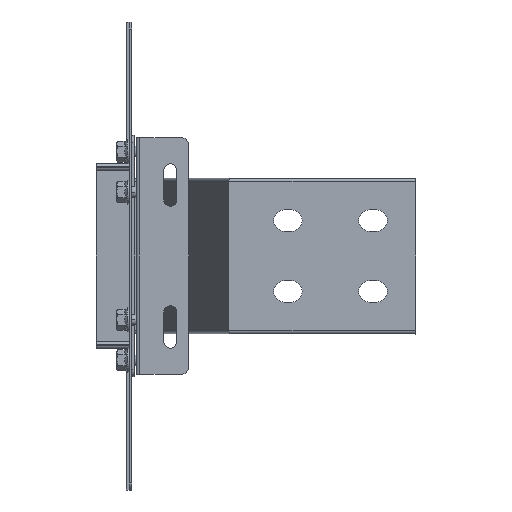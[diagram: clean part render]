
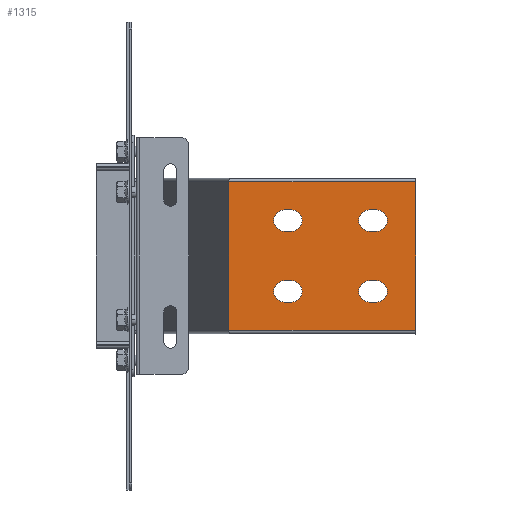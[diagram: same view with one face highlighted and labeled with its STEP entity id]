
A CAD part, front view. The second image highlights one B-rep face of the part: STEP entity #1315.
In plain terms, the highlighted planar face has unit normal (0, -1, 0).
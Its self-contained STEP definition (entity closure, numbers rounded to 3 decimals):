
#1143=AXIS2_PLACEMENT_3D('Plane Axis2P3D',#1140,#1141,#1142) ;
#1181=AXIS2_PLACEMENT_3D('Circle Axis2P3D',#1179,#1180,$) ;
#1197=AXIS2_PLACEMENT_3D('Circle Axis2P3D',#1195,#1196,$) ;
#1215=AXIS2_PLACEMENT_3D('Circle Axis2P3D',#1213,#1214,$) ;
#1231=AXIS2_PLACEMENT_3D('Circle Axis2P3D',#1229,#1230,$) ;
#1249=AXIS2_PLACEMENT_3D('Circle Axis2P3D',#1247,#1248,$) ;
#1265=AXIS2_PLACEMENT_3D('Circle Axis2P3D',#1263,#1264,$) ;
#1292=AXIS2_PLACEMENT_3D('Circle Axis2P3D',#1290,#1291,$) ;
#1306=AXIS2_PLACEMENT_3D('Circle Axis2P3D',#1304,#1305,$) ;
#1140=CARTESIAN_POINT('Axis2P3D Location',(200.,-152.625,-52.375)) ;
#1145=CARTESIAN_POINT('Line Origine',(134.132,-152.625,-52.375)) ;
#1149=CARTESIAN_POINT('Vertex',(200.,-152.625,-52.375)) ;
#1151=CARTESIAN_POINT('Vertex',(68.264,-152.625,-52.375)) ;
#1154=CARTESIAN_POINT('Line Origine',(200.,-152.625,0.)) ;
#1158=CARTESIAN_POINT('Vertex',(200.,-152.625,52.375)) ;
#1161=CARTESIAN_POINT('Line Origine',(134.132,-152.625,52.375)) ;
#1165=CARTESIAN_POINT('Vertex',(68.264,-152.625,52.375)) ;
#1168=CARTESIAN_POINT('Line Origine',(68.264,-152.625,0.)) ;
#1179=CARTESIAN_POINT('Axis2P3D Location',(112.5,-152.625,25.)) ;
#1183=CARTESIAN_POINT('Vertex',(112.5,-152.625,17.5)) ;
#1185=CARTESIAN_POINT('Vertex',(112.5,-152.625,32.5)) ;
#1188=CARTESIAN_POINT('Line Origine',(110.,-152.625,17.5)) ;
#1192=CARTESIAN_POINT('Vertex',(107.5,-152.625,17.5)) ;
#1195=CARTESIAN_POINT('Axis2P3D Location',(107.5,-152.625,25.)) ;
#1199=CARTESIAN_POINT('Vertex',(107.5,-152.625,32.5)) ;
#1202=CARTESIAN_POINT('Line Origine',(110.,-152.625,32.5)) ;
#1213=CARTESIAN_POINT('Axis2P3D Location',(172.5,-152.625,25.)) ;
#1217=CARTESIAN_POINT('Vertex',(172.5,-152.625,17.5)) ;
#1219=CARTESIAN_POINT('Vertex',(172.5,-152.625,32.5)) ;
#1222=CARTESIAN_POINT('Line Origine',(170.,-152.625,17.5)) ;
#1226=CARTESIAN_POINT('Vertex',(167.5,-152.625,17.5)) ;
#1229=CARTESIAN_POINT('Axis2P3D Location',(167.5,-152.625,25.)) ;
#1233=CARTESIAN_POINT('Vertex',(167.5,-152.625,32.5)) ;
#1236=CARTESIAN_POINT('Line Origine',(170.,-152.625,32.5)) ;
#1247=CARTESIAN_POINT('Axis2P3D Location',(107.5,-152.625,-25.)) ;
#1251=CARTESIAN_POINT('Vertex',(107.5,-152.625,-17.5)) ;
#1253=CARTESIAN_POINT('Vertex',(107.5,-152.625,-32.5)) ;
#1256=CARTESIAN_POINT('Line Origine',(110.,-152.625,-17.5)) ;
#1260=CARTESIAN_POINT('Vertex',(112.5,-152.625,-17.5)) ;
#1263=CARTESIAN_POINT('Axis2P3D Location',(112.5,-152.625,-25.)) ;
#1267=CARTESIAN_POINT('Vertex',(112.5,-152.625,-32.5)) ;
#1270=CARTESIAN_POINT('Line Origine',(110.,-152.625,-32.5)) ;
#1281=CARTESIAN_POINT('Line Origine',(170.,-152.625,-17.5)) ;
#1285=CARTESIAN_POINT('Vertex',(172.5,-152.625,-17.5)) ;
#1287=CARTESIAN_POINT('Vertex',(167.5,-152.625,-17.5)) ;
#1290=CARTESIAN_POINT('Axis2P3D Location',(172.5,-152.625,-25.)) ;
#1294=CARTESIAN_POINT('Vertex',(172.5,-152.625,-32.5)) ;
#1297=CARTESIAN_POINT('Line Origine',(170.,-152.625,-32.5)) ;
#1301=CARTESIAN_POINT('Vertex',(167.5,-152.625,-32.5)) ;
#1304=CARTESIAN_POINT('Axis2P3D Location',(167.5,-152.625,-25.)) ;
#1141=DIRECTION('Axis2P3D Direction',(0.,-1.,0.)) ;
#1142=DIRECTION('Axis2P3D XDirection',(0.,0.,1.)) ;
#1146=DIRECTION('Vector Direction',(-1.,0.,0.)) ;
#1155=DIRECTION('Vector Direction',(0.,0.,1.)) ;
#1162=DIRECTION('Vector Direction',(-1.,0.,0.)) ;
#1169=DIRECTION('Vector Direction',(0.,0.,1.)) ;
#1180=DIRECTION('Axis2P3D Direction',(0.,-1.,0.)) ;
#1189=DIRECTION('Vector Direction',(-1.,0.,0.)) ;
#1196=DIRECTION('Axis2P3D Direction',(0.,-1.,0.)) ;
#1203=DIRECTION('Vector Direction',(1.,0.,0.)) ;
#1214=DIRECTION('Axis2P3D Direction',(0.,-1.,0.)) ;
#1223=DIRECTION('Vector Direction',(1.,0.,0.)) ;
#1230=DIRECTION('Axis2P3D Direction',(0.,-1.,0.)) ;
#1237=DIRECTION('Vector Direction',(-1.,0.,0.)) ;
#1248=DIRECTION('Axis2P3D Direction',(0.,-1.,0.)) ;
#1257=DIRECTION('Vector Direction',(-1.,0.,0.)) ;
#1264=DIRECTION('Axis2P3D Direction',(0.,-1.,0.)) ;
#1271=DIRECTION('Vector Direction',(1.,0.,0.)) ;
#1282=DIRECTION('Vector Direction',(1.,0.,0.)) ;
#1291=DIRECTION('Axis2P3D Direction',(0.,-1.,0.)) ;
#1298=DIRECTION('Vector Direction',(-1.,0.,0.)) ;
#1305=DIRECTION('Axis2P3D Direction',(0.,-1.,0.)) ;
#1147=VECTOR('Line Direction',#1146,1.) ;
#1156=VECTOR('Line Direction',#1155,1.) ;
#1163=VECTOR('Line Direction',#1162,1.) ;
#1170=VECTOR('Line Direction',#1169,1.) ;
#1190=VECTOR('Line Direction',#1189,1.) ;
#1204=VECTOR('Line Direction',#1203,1.) ;
#1224=VECTOR('Line Direction',#1223,1.) ;
#1238=VECTOR('Line Direction',#1237,1.) ;
#1258=VECTOR('Line Direction',#1257,1.) ;
#1272=VECTOR('Line Direction',#1271,1.) ;
#1283=VECTOR('Line Direction',#1282,1.) ;
#1299=VECTOR('Line Direction',#1298,1.) ;
#1174=ORIENTED_EDGE('',*,*,#1153,.F.) ;
#1175=ORIENTED_EDGE('',*,*,#1160,.F.) ;
#1176=ORIENTED_EDGE('',*,*,#1167,.T.) ;
#1177=ORIENTED_EDGE('',*,*,#1172,.F.) ;
#1208=ORIENTED_EDGE('',*,*,#1187,.F.) ;
#1209=ORIENTED_EDGE('',*,*,#1194,.F.) ;
#1210=ORIENTED_EDGE('',*,*,#1201,.F.) ;
#1211=ORIENTED_EDGE('',*,*,#1206,.F.) ;
#1242=ORIENTED_EDGE('',*,*,#1221,.F.) ;
#1243=ORIENTED_EDGE('',*,*,#1228,.F.) ;
#1244=ORIENTED_EDGE('',*,*,#1235,.F.) ;
#1245=ORIENTED_EDGE('',*,*,#1240,.F.) ;
#1276=ORIENTED_EDGE('',*,*,#1255,.F.) ;
#1277=ORIENTED_EDGE('',*,*,#1262,.F.) ;
#1278=ORIENTED_EDGE('',*,*,#1269,.F.) ;
#1279=ORIENTED_EDGE('',*,*,#1274,.F.) ;
#1310=ORIENTED_EDGE('',*,*,#1289,.F.) ;
#1311=ORIENTED_EDGE('',*,*,#1296,.F.) ;
#1312=ORIENTED_EDGE('',*,*,#1303,.F.) ;
#1313=ORIENTED_EDGE('',*,*,#1308,.F.) ;
#1212=FACE_BOUND('',#1207,.T.) ;
#1246=FACE_BOUND('',#1241,.T.) ;
#1280=FACE_BOUND('',#1275,.T.) ;
#1314=FACE_BOUND('',#1309,.T.) ;
#1315=ADVANCED_FACE('N',(#1178,#1212,#1246,#1280,#1314),#1144,.T.) ;
#1182=CIRCLE('generated circle',#1181,7.5) ;
#1198=CIRCLE('generated circle',#1197,7.5) ;
#1216=CIRCLE('generated circle',#1215,7.5) ;
#1232=CIRCLE('generated circle',#1231,7.5) ;
#1250=CIRCLE('generated circle',#1249,7.5) ;
#1266=CIRCLE('generated circle',#1265,7.5) ;
#1293=CIRCLE('generated circle',#1292,7.5) ;
#1307=CIRCLE('generated circle',#1306,7.5) ;
#1153=EDGE_CURVE('',#1150,#1152,#1148,.T.) ;
#1160=EDGE_CURVE('',#1159,#1150,#1157,.F.) ;
#1167=EDGE_CURVE('',#1159,#1166,#1164,.T.) ;
#1172=EDGE_CURVE('',#1152,#1166,#1171,.T.) ;
#1187=EDGE_CURVE('',#1184,#1186,#1182,.T.) ;
#1194=EDGE_CURVE('',#1193,#1184,#1191,.F.) ;
#1201=EDGE_CURVE('',#1200,#1193,#1198,.T.) ;
#1206=EDGE_CURVE('',#1186,#1200,#1205,.F.) ;
#1221=EDGE_CURVE('',#1218,#1220,#1216,.T.) ;
#1228=EDGE_CURVE('',#1227,#1218,#1225,.T.) ;
#1235=EDGE_CURVE('',#1234,#1227,#1232,.T.) ;
#1240=EDGE_CURVE('',#1220,#1234,#1239,.T.) ;
#1255=EDGE_CURVE('',#1252,#1254,#1250,.T.) ;
#1262=EDGE_CURVE('',#1261,#1252,#1259,.T.) ;
#1269=EDGE_CURVE('',#1268,#1261,#1266,.T.) ;
#1274=EDGE_CURVE('',#1254,#1268,#1273,.T.) ;
#1289=EDGE_CURVE('',#1286,#1288,#1284,.F.) ;
#1296=EDGE_CURVE('',#1295,#1286,#1293,.T.) ;
#1303=EDGE_CURVE('',#1302,#1295,#1300,.F.) ;
#1308=EDGE_CURVE('',#1288,#1302,#1307,.T.) ;
#1173=EDGE_LOOP('',(#1174,#1175,#1176,#1177)) ;
#1207=EDGE_LOOP('',(#1208,#1209,#1210,#1211)) ;
#1241=EDGE_LOOP('',(#1242,#1243,#1244,#1245)) ;
#1275=EDGE_LOOP('',(#1276,#1277,#1278,#1279)) ;
#1309=EDGE_LOOP('',(#1310,#1311,#1312,#1313)) ;
#1178=FACE_OUTER_BOUND('',#1173,.T.) ;
#1148=LINE('Line',#1145,#1147) ;
#1157=LINE('Line',#1154,#1156) ;
#1164=LINE('Line',#1161,#1163) ;
#1171=LINE('Line',#1168,#1170) ;
#1191=LINE('Line',#1188,#1190) ;
#1205=LINE('Line',#1202,#1204) ;
#1225=LINE('Line',#1222,#1224) ;
#1239=LINE('Line',#1236,#1238) ;
#1259=LINE('Line',#1256,#1258) ;
#1273=LINE('Line',#1270,#1272) ;
#1284=LINE('Line',#1281,#1283) ;
#1300=LINE('Line',#1297,#1299) ;
#1144=PLANE('',#1143) ;
#1150=VERTEX_POINT('',#1149) ;
#1152=VERTEX_POINT('',#1151) ;
#1159=VERTEX_POINT('',#1158) ;
#1166=VERTEX_POINT('',#1165) ;
#1184=VERTEX_POINT('',#1183) ;
#1186=VERTEX_POINT('',#1185) ;
#1193=VERTEX_POINT('',#1192) ;
#1200=VERTEX_POINT('',#1199) ;
#1218=VERTEX_POINT('',#1217) ;
#1220=VERTEX_POINT('',#1219) ;
#1227=VERTEX_POINT('',#1226) ;
#1234=VERTEX_POINT('',#1233) ;
#1252=VERTEX_POINT('',#1251) ;
#1254=VERTEX_POINT('',#1253) ;
#1261=VERTEX_POINT('',#1260) ;
#1268=VERTEX_POINT('',#1267) ;
#1286=VERTEX_POINT('',#1285) ;
#1288=VERTEX_POINT('',#1287) ;
#1295=VERTEX_POINT('',#1294) ;
#1302=VERTEX_POINT('',#1301) ;
